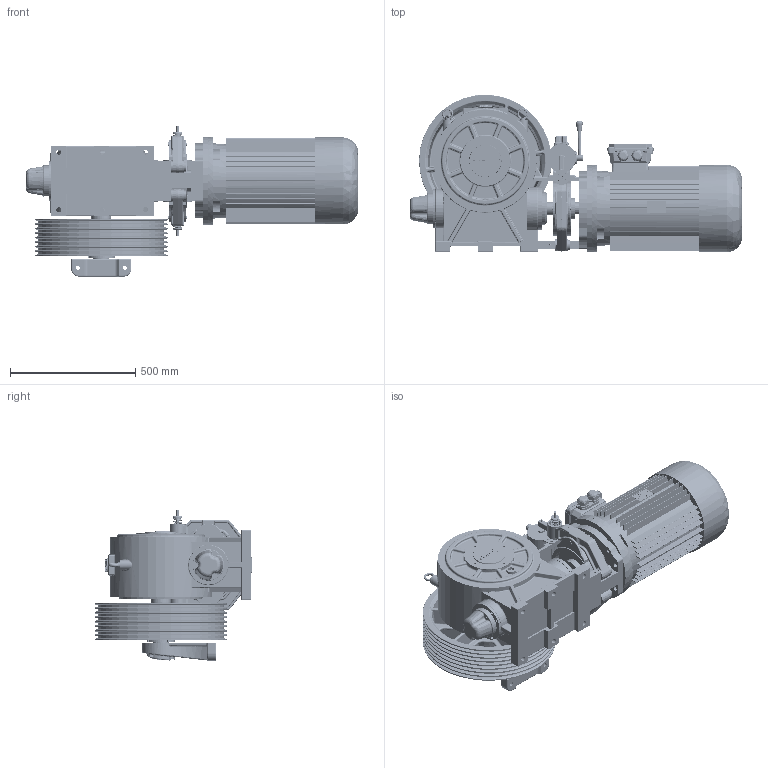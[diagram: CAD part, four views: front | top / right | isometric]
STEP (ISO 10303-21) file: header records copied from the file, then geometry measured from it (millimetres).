
FILE_DESCRIPTION (( 'STEP AP214' ), '1' );
FILE_NAME ('FC2205021.STEP', '2025-12-23T10:58:41', ( '' ), ( '' ), 'SwSTEP 2.0', 'SolidWorks 2023', '' );
FILE_SCHEMA (( 'AUTOMOTIVE_DESIGN' ));
Length unit declared in the file: millimetre
Products named in the file (1): FC2205021
Bounding box: 1327 x 778.83 x 676.07 mm (x, y, z)
Volume: 120375199.3 mm3; surface area: 6092293.8 mm2
Topology: 53 solids, 61 shells, 5691 faces, 13709 edges, 8220 vertices
Faces by surface type: cylinder 1722, plane 1491, bspline 1172, torus 574, cone 469, sphere 263
Entity records: 235181 total; most frequent: CARTESIAN_POINT 110894, ORIENTED_EDGE 27016, DIRECTION 24201, EDGE_CURVE 13508, AXIS2_PLACEMENT_3D 9687, VERTEX_POINT 8216, EDGE_LOOP 6270, ADVANCED_FACE 5691
